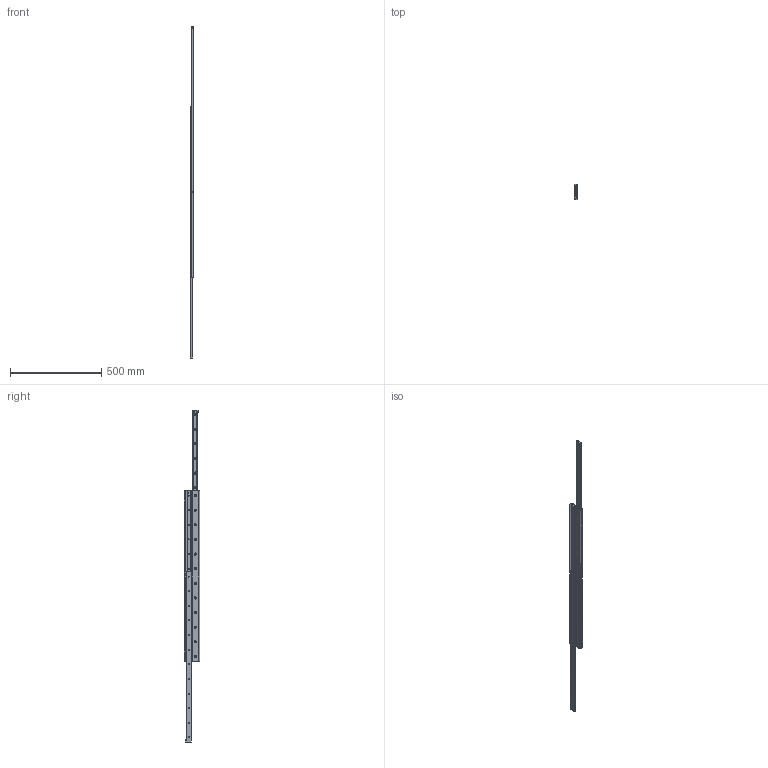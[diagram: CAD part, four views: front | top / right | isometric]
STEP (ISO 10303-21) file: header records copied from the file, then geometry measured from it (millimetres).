
FILE_DESCRIPTION (( 'STEP AP203' ), '1' );
FILE_NAME ('L1984.28D-0930.step', '2018-07-03T12:15:25', ( '' ), ( '' ), 'SwSTEP 2.0', 'SolidWorks 2017', '' );
FILE_SCHEMA (( 'CONFIG_CONTROL_DESIGN' ));
Length unit declared in the file: millimetre
Products named in the file (5): L1984.28D-0930; Part1_L1984.28D-0930; Part2_L1984.28D-0930; Part0_L1984.28D-0930; Part3_L1984.28D-0930
Assembly tree (7 placements, depth 2):
  L1984.28D-0930
    Part0_L1984.28D-0930
    Part2_L1984.28D-0930  x2
    Part1_L1984.28D-0930  x2
    Part3_L1984.28D-0930  x2
Bounding box: 17 x 84 x 1816 mm (x, y, z)
Volume: 797706.7 mm3; surface area: 548523.4 mm2
Topology: 7 solids, 7 shells, 632 faces, 1606 edges, 1068 vertices
Faces by surface type: plane 418, cylinder 118, cone 96
Entity records: 14316 total; most frequent: CARTESIAN_POINT 2380, DIRECTION 2357, ORIENTED_EDGE 2298, EDGE_CURVE 1149, LINE 875, VECTOR 875, VERTEX_POINT 764, AXIS2_PLACEMENT_3D 741
